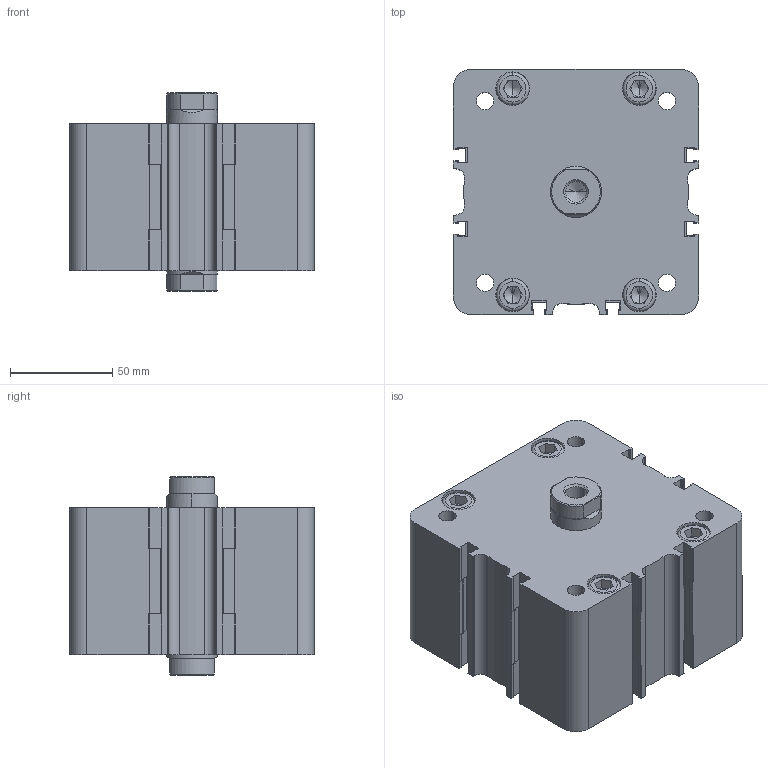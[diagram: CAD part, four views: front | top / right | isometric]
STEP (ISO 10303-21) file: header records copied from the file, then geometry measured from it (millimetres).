
FILE_DESCRIPTION (( 'STEP AP203' ), '1' );
FILE_NAME ('WJ1000005A.step', '2013-04-22T07:27:14', ( '' ), ( '' ), 'SwSTEP 2.0', 'SolidWorks 2012', '' );
FILE_SCHEMA (( 'CONFIG_CONTROL_DESIGN' ));
Length unit declared in the file: millimetre
Products named in the file (1): WJ1000005A
Bounding box: 120 x 120 x 97 mm (x, y, z)
Volume: 975098.2 mm3; surface area: 89737 mm2
Topology: 1 solids, 1 shells, 573 faces, 1541 edges, 982 vertices
Faces by surface type: plane 286, cylinder 229, cone 42, torus 16
Entity records: 18039 total; most frequent: CARTESIAN_POINT 3281, DIRECTION 3186, ORIENTED_EDGE 3046, EDGE_CURVE 1523, AXIS2_PLACEMENT_3D 1123, VERTEX_POINT 982, VECTOR 940, LINE 940
